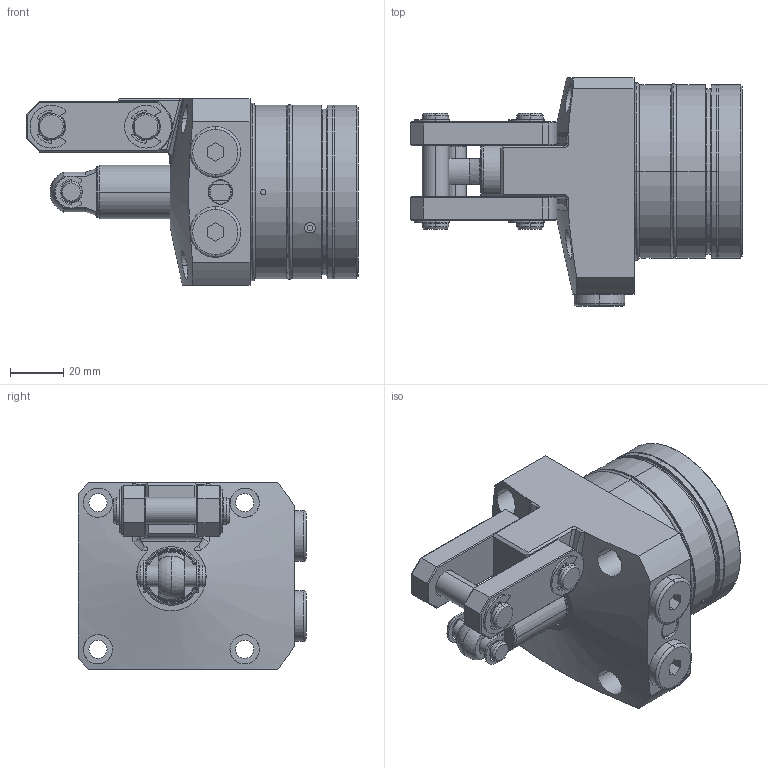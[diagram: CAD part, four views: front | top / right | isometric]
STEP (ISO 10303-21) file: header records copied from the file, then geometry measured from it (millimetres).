
FILE_DESCRIPTION(/* description */ (''),/* implementation_level */ '2;1');
FILE_NAME(/* name */ 'KTPW65-RH.stp',/* time_stamp */ '2022-11-19T16:54:28+08:00',/* author */ (''),/* organization */ (''),/* preprocessor_version */ 'ST-DEVELOPER v16.7',/* originating_system */ 'SIEMENS PLM Software NX 12.0',/* authorisation */ '');
FILE_SCHEMA (('AP203_CONFIGURATION_CONTROLLED_3D_DESIGN_OF_MECHANICAL_PARTS_AND_ASSEMBLIES_MIM_LF { 1 0 10303 403 2 1 2}'));
Length unit declared in the file: millimetre
Products named in the file (11): KTPW65-RH-03; KTPW65-RH-01; KTPW65-RH-05; KTPW65-RH-09; KTPW65-RH-010; KTPW65-RH-02; KTPW65-RH-04; KTPW65-RH-08; KTPW65-RH-06; KTPW65-RH-07; KTPC65-RH_stp
Assembly tree (19 placements, depth 2):
  KTPC65-RH_stp
    KTPW65-RH-07  x4
    KTPW65-RH-06
    KTPW65-RH-08  x2
    KTPW65-RH-04  x2
    KTPW65-RH-02
    KTPW65-RH-010  x3
    KTPW65-RH-09  x2
    KTPW65-RH-05  x2
    KTPW65-RH-01
    KTPW65-RH-03
Bounding box: 124.5 x 85.5 x 70 mm (x, y, z)
Volume: 309174.4 mm3; surface area: 62772.2 mm2
Topology: 21 solids, 21 shells, 685 faces, 1585 edges, 982 vertices
Faces by surface type: cylinder 266, plane 205, torus 124, cone 78, bspline 10, sphere 2
Full cylindrical faces by diameter (mm): 65 x1
Entity records: 14194 total; most frequent: CARTESIAN_POINT 2963, DIRECTION 2231, ORIENTED_EDGE 1890, EDGE_CURVE 945, AXIS2_PLACEMENT_3D 932, VERTEX_POINT 582, CIRCLE 502, EDGE_LOOP 475
